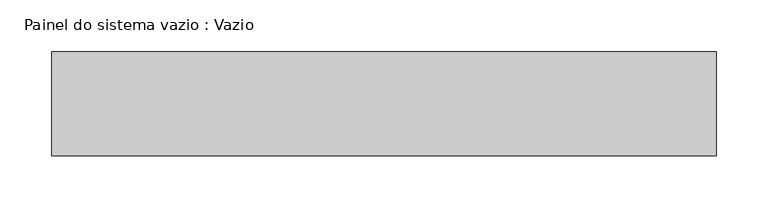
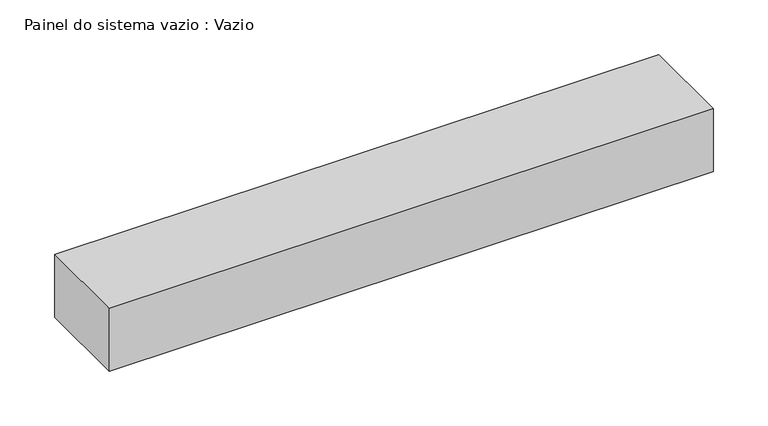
"""IFC4 building model written with IfcOpenShell, lengths in millimetres: plate geometry, Painel do sistema vazio : Vazio."""

from ifc_helpers import new_model, si_unit, origin, origin_with_axes, place, context, project, spatial, polyline, outline, extrude, source, transform, mapped, element, save


def painel_do_sistema_vazio_vazio_f87aa51e(model_context):
    return source(origin(), model_context, "Body", "SweptSolid", [
        extrude(outline(polyline([(319.6196917, -50.0), (-319.6196917, -50.0), (-319.6196917, 50.0), (319.6196917, 50.0), (319.6196917, -50.0)])), origin_with_axes(), (0.0, 0.0, 1.0), 70.2984937),
    ])


if __name__ == "__main__":
    model = new_model("IFC4")
    model_context = context("Model", 3, world=origin())
    ifc_project = project(units=[si_unit("LENGTHUNIT", "METRE", prefix="MILLI")], contexts=[model_context])
    site = spatial("IfcSite", under=ifc_project)
    building = spatial("IfcBuilding", under=site)
    placement = place(None, origin())
    painel_do_sistema_vazio_vazio_shape = painel_do_sistema_vazio_vazio_f87aa51e(model_context)
    element("IfcPlate", 1, ObjectType="Painel do sistema vazio : Vazio", at=placement, inside=building, context=model_context, shape_type="MappedRepresentation", body=[
        mapped(painel_do_sistema_vazio_vazio_shape, transform((0.0, 0.0, 0.0), x_axis=(1.0, 0.0, 0.0), y_axis=(0.0, 1.0, 0.0), z_axis=(0.0, 0.0, 1.0))),
    ])
    save(model, "model.ifc")
